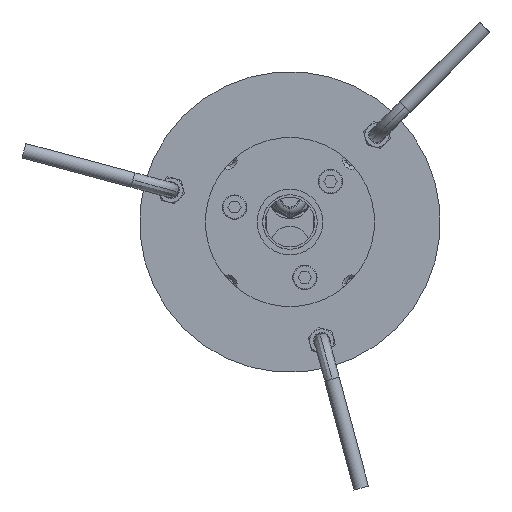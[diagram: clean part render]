
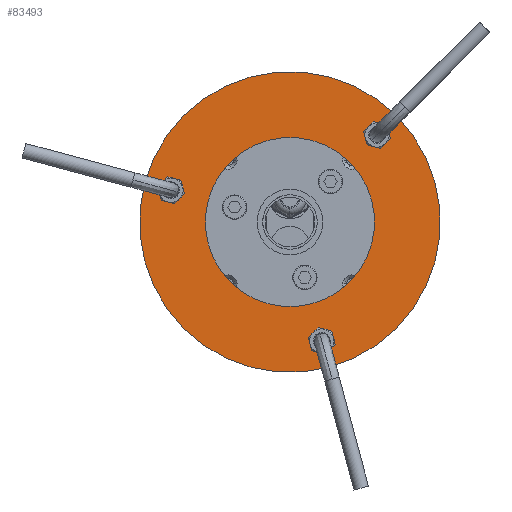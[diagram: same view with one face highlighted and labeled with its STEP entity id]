
A CAD part, front view. The second image highlights one B-rep face of the part: STEP entity #83493.
In plain terms, the highlighted planar face has unit normal (0, -1, 0) as drawn and (0, 0, 1) by its records, which use the part's own axes.
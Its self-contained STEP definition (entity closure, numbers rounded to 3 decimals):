
#83264=CARTESIAN_POINT('',(0.,0.,1.5));
#83265=DIRECTION('',(0.,0.,1.));
#83266=DIRECTION('',(1.,0.,0.));
#83267=AXIS2_PLACEMENT_3D('',#83264,#83265,#83266);
#83269=CARTESIAN_POINT('',(0.,0.,1.5));
#83270=DIRECTION('',(0.,0.,1.));
#83271=DIRECTION('',(-1.,0.,0.));
#83272=AXIS2_PLACEMENT_3D('',#83269,#83270,#83271);
#83274=CARTESIAN_POINT('',(0.,0.,1.5));
#83275=DIRECTION('',(0.,0.,-1.));
#83276=DIRECTION('',(1.,0.,0.));
#83277=AXIS2_PLACEMENT_3D('',#83274,#83275,#83276);
#83279=CARTESIAN_POINT('',(0.,0.,1.5));
#83280=DIRECTION('',(0.,0.,-1.));
#83281=DIRECTION('',(-1.,0.,0.));
#83282=AXIS2_PLACEMENT_3D('',#83279,#83280,#83281);
#83284=CARTESIAN_POINT('',(0.,-65.5,1.5));
#83285=DIRECTION('',(0.,0.,-1.));
#83286=DIRECTION('',(1.,0.,0.));
#83287=AXIS2_PLACEMENT_3D('',#83284,#83285,#83286);
#83289=CARTESIAN_POINT('',(0.,-65.5,1.5));
#83290=DIRECTION('',(0.,0.,-1.));
#83291=DIRECTION('',(-1.,0.,0.));
#83292=AXIS2_PLACEMENT_3D('',#83289,#83290,#83291);
#83294=CARTESIAN_POINT('',(-56.725,32.75,1.5));
#83295=DIRECTION('',(0.,0.,-1.));
#83296=DIRECTION('',(1.,0.,0.));
#83297=AXIS2_PLACEMENT_3D('',#83294,#83295,#83296);
#83299=CARTESIAN_POINT('',(-56.725,32.75,1.5));
#83300=DIRECTION('',(0.,0.,-1.));
#83301=DIRECTION('',(-1.,0.,0.));
#83302=AXIS2_PLACEMENT_3D('',#83299,#83300,#83301);
#83304=CARTESIAN_POINT('',(56.725,32.75,1.5));
#83305=DIRECTION('',(0.,0.,-1.));
#83306=DIRECTION('',(1.,0.,0.));
#83307=AXIS2_PLACEMENT_3D('',#83304,#83305,#83306);
#83309=CARTESIAN_POINT('',(56.725,32.75,1.5));
#83310=DIRECTION('',(0.,0.,-1.));
#83311=DIRECTION('',(-1.,0.,0.));
#83312=AXIS2_PLACEMENT_3D('',#83309,#83310,#83311);
#83342=CARTESIAN_POINT('',(-45.,0.,1.5));
#83343=CARTESIAN_POINT('',(45.,0.,1.5));
#83344=VERTEX_POINT('',#83342);
#83345=VERTEX_POINT('',#83343);
#83354=CARTESIAN_POINT('',(-61.225,32.75,1.5));
#83355=CARTESIAN_POINT('',(-52.225,32.75,1.5));
#83356=VERTEX_POINT('',#83354);
#83357=VERTEX_POINT('',#83355);
#83362=CARTESIAN_POINT('',(4.5,-65.5,1.5));
#83363=CARTESIAN_POINT('',(-4.5,-65.5,1.5));
#83364=VERTEX_POINT('',#83362);
#83365=VERTEX_POINT('',#83363);
#83370=CARTESIAN_POINT('',(61.225,32.75,1.5));
#83371=VERTEX_POINT('',#83370);
#83372=CARTESIAN_POINT('',(52.225,32.75,1.5));
#83373=VERTEX_POINT('',#83372);
#83378=CARTESIAN_POINT('',(80.,0.,1.5));
#83379=CARTESIAN_POINT('',(-80.,0.,1.5));
#83380=VERTEX_POINT('',#83378);
#83381=VERTEX_POINT('',#83379);
#83461=CARTESIAN_POINT('',(0.,0.,1.5));
#83462=DIRECTION('',(0.,0.,1.));
#83463=DIRECTION('',(1.,0.,0.));
#83464=AXIS2_PLACEMENT_3D('',#83461,#83462,#83463);
#83465=PLANE('',#83464);
#83466=ORIENTED_EDGE('',*,*,#83441,.F.);
#83467=ORIENTED_EDGE('',*,*,#83454,.F.);
#83468=EDGE_LOOP('',(#83466,#83467));
#83469=FACE_OUTER_BOUND('',#83468,.F.);
#83471=ORIENTED_EDGE('',*,*,#83470,.F.);
#83473=ORIENTED_EDGE('',*,*,#83472,.F.);
#83474=EDGE_LOOP('',(#83471,#83473));
#83475=FACE_BOUND('',#83474,.F.);
#83477=ORIENTED_EDGE('',*,*,#83476,.F.);
#83479=ORIENTED_EDGE('',*,*,#83478,.F.);
#83480=EDGE_LOOP('',(#83477,#83479));
#83481=FACE_BOUND('',#83480,.F.);
#83482=ORIENTED_EDGE('',*,*,#83391,.F.);
#83484=ORIENTED_EDGE('',*,*,#83483,.F.);
#83485=EDGE_LOOP('',(#83482,#83484));
#83486=FACE_BOUND('',#83485,.F.);
#83488=ORIENTED_EDGE('',*,*,#83487,.F.);
#83490=ORIENTED_EDGE('',*,*,#83489,.F.);
#83491=EDGE_LOOP('',(#83488,#83490));
#83492=FACE_BOUND('',#83491,.F.);
#83493=ADVANCED_FACE('',(#83469,#83475,#83481,#83486,#83492),#83465,.T.);
#83268=CIRCLE('',#83267,80.);
#83273=CIRCLE('',#83272,80.);
#83278=CIRCLE('',#83277,45.);
#83283=CIRCLE('',#83282,45.);
#83288=CIRCLE('',#83287,4.5);
#83293=CIRCLE('',#83292,4.5);
#83298=CIRCLE('',#83297,4.5);
#83303=CIRCLE('',#83302,4.5);
#83308=CIRCLE('',#83307,4.5);
#83313=CIRCLE('',#83312,4.5);
#83391=EDGE_CURVE('',#83357,#83356,#83298,.T.);
#83441=EDGE_CURVE('',#83380,#83381,#83268,.T.);
#83454=EDGE_CURVE('',#83381,#83380,#83273,.T.);
#83470=EDGE_CURVE('',#83345,#83344,#83278,.T.);
#83472=EDGE_CURVE('',#83344,#83345,#83283,.T.);
#83476=EDGE_CURVE('',#83364,#83365,#83288,.T.);
#83478=EDGE_CURVE('',#83365,#83364,#83293,.T.);
#83483=EDGE_CURVE('',#83356,#83357,#83303,.T.);
#83487=EDGE_CURVE('',#83371,#83373,#83308,.T.);
#83489=EDGE_CURVE('',#83373,#83371,#83313,.T.);
